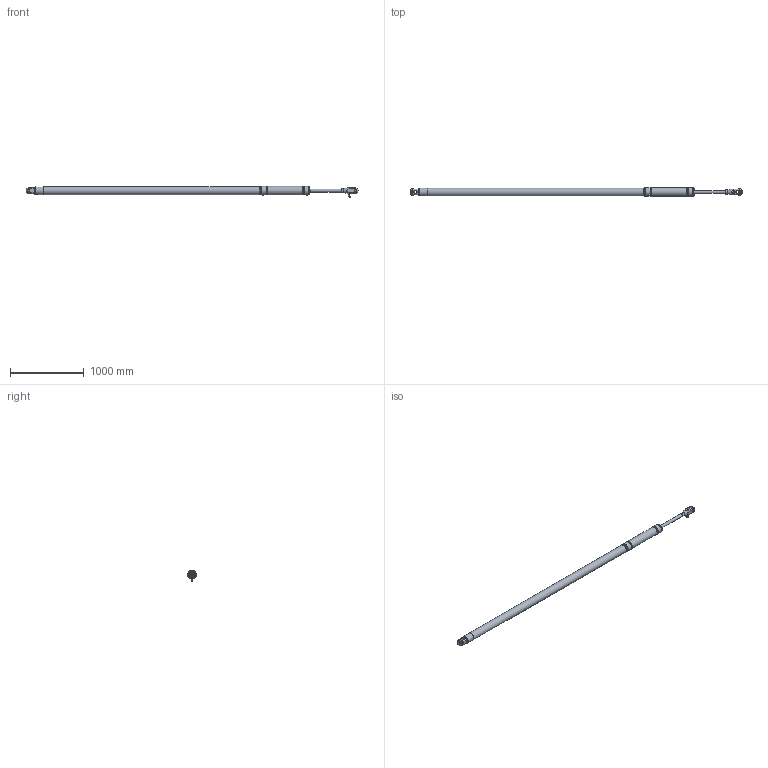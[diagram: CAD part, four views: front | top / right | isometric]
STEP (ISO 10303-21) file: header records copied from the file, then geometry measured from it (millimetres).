
FILE_DESCRIPTION(/* description */ (''),/* implementation_level */ '2;1');
FILE_NAME(/* name */ 'Q:\AA BRAND HYDRAULICS\HYDRAULICS FAMILY DIRECTORY\HYDRAULICS\CYLINDERS\VANGS\ALUMINIUM SINGLE ACTING - STAINLESS ON REQUEST (-0010 To -0150)\VSA-0060-S425-NP-71-L4000\VSA-0060-S425-NP-71-L4000 (Open).stp',/* time_stamp */ '2018-03-28T14:02:28+01:00',/* author */ ('Lorena'),/* organization */ (''),/* preprocessor_version */ 'ST-DEVELOPER v17',/* originating_system */ 'Autodesk Inventor 2018',/* authorisation */ '');
FILE_SCHEMA (('AUTOMOTIVE_DESIGN { 1 0 10303 214 3 1 1 }'));
Length unit declared in the file: millimetre
Products named in the file (1): VSA-0060-S425-NP-71-L4000 (Open)
Bounding box: 4502.5 x 117.4 x 154.03 mm (x, y, z)
Volume: 36853576.9 mm3; surface area: 1478108.8 mm2
Topology: 2 solids, 6 shells, 1708 faces, 4564 edges, 3017 vertices
Faces by surface type: plane 976, bspline 578, cylinder 83, cone 63, sphere 4, torus 4
Full cylindrical faces by diameter (mm): 5 x5, 7.5 x1, 8 x2, 8.1 x1, 9 x2, 10 x2, 11 x2, 14 x1, 14.35 x1, 14.662 x1, 15 x3, 15.662 x1, 16.662 x2, 18 x2, 20 x2, 21.4 x3, 25.4 x2, 26 x1, 27 x1, 28 x1, 31.75 x2, 40 x1, 42 x1, 56 x1, 99.5 x1, 100 x1, 108 x2, 112.8 x1, 114.4 x1, 117.4 x4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
Entity records: 62208 total; most frequent: CARTESIAN_POINT 21660, ORIENTED_EDGE 9112, DIRECTION 5931, EDGE_CURVE 4556, VERTEX_POINT 3018, LINE 2915, VECTOR 2915, EDGE_LOOP 1882
